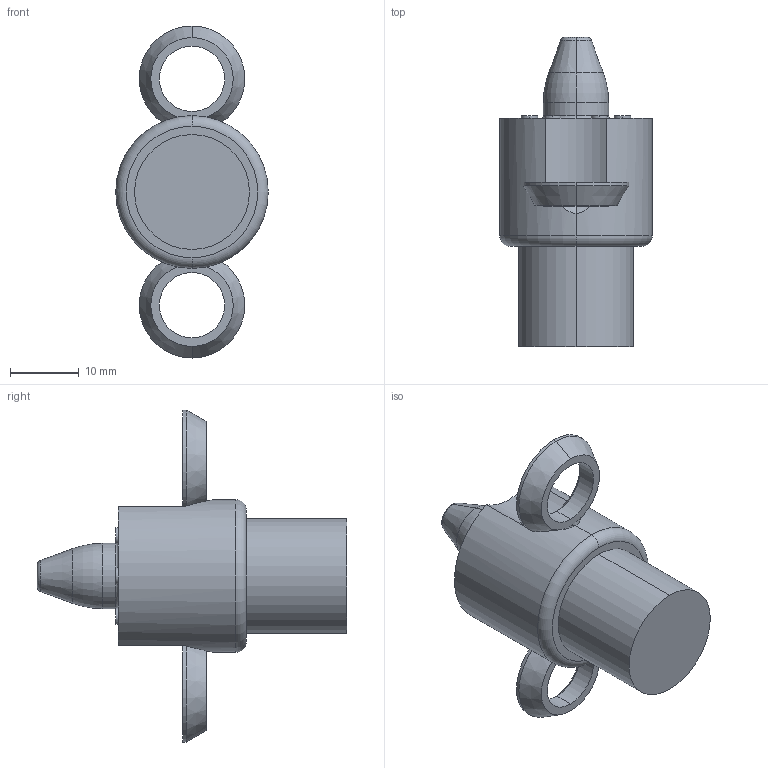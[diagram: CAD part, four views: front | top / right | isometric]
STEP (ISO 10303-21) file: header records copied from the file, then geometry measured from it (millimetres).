
FILE_DESCRIPTION (( 'STEP AP214' ), '1' );
FILE_NAME ('PA-.375-.075-P-F2.stp', '2020-05-01T17:22:47', ( '' ), ( '' ), 'SwSTEP 2.0', 'SolidWorks 2017', '' );
FILE_SCHEMA (( 'AUTOMOTIVE_DESIGN' ));
Length unit declared in the file: inch
Products named in the file (1): PA-.375-.075-P-F2
Bounding box: 22.23 x 45.09 x 48.41 mm (x, y, z)
Volume: 11269.1 mm3; surface area: 3879.2 mm2
Topology: 3 solids, 3 shells, 67 faces, 138 edges, 85 vertices
Faces by surface type: cylinder 28, cone 14, plane 14, torus 11
Entity records: 1918 total; most frequent: CARTESIAN_POINT 363, DIRECTION 354, ORIENTED_EDGE 276, AXIS2_PLACEMENT_3D 156, EDGE_CURVE 138, CIRCLE 88, VERTEX_POINT 85, EDGE_LOOP 79
